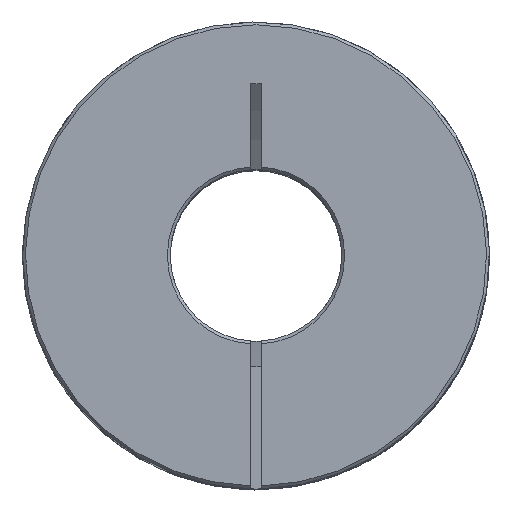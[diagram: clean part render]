
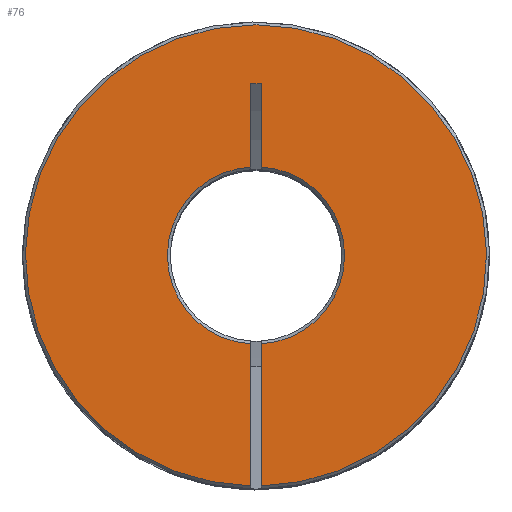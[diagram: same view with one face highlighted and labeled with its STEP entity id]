
A CAD part, top view. The second image highlights one B-rep face of the part: STEP entity #76.
In plain terms, the highlighted planar face has unit normal (0, 0, 1).
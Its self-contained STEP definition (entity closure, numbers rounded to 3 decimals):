
#76 = ADVANCED_FACE( '', ( #153 ), #154, .T. );
#153 = FACE_OUTER_BOUND( '', #361, .T. );
#154 = PLANE( '', #362 );
#361 = EDGE_LOOP( '', ( #571, #572, #573, #574, #575, #576, #577, #578 ) );
#362 = AXIS2_PLACEMENT_3D( '', #579, #580, #581 );
#571 = ORIENTED_EDGE( '', *, *, #1114, .F. );
#572 = ORIENTED_EDGE( '', *, *, #1115, .T. );
#573 = ORIENTED_EDGE( '', *, *, #1116, .T. );
#574 = ORIENTED_EDGE( '', *, *, #1117, .T. );
#575 = ORIENTED_EDGE( '', *, *, #1118, .T. );
#576 = ORIENTED_EDGE( '', *, *, #1119, .F. );
#577 = ORIENTED_EDGE( '', *, *, #1120, .F. );
#578 = ORIENTED_EDGE( '', *, *, #1121, .T. );
#579 = CARTESIAN_POINT( '', ( -9., 0., 35. ) );
#580 = DIRECTION( '', ( 0., 0., 1. ) );
#581 = DIRECTION( '', ( 1., 0., 0. ) );
#1114 = EDGE_CURVE( '', #1278, #1279, #1280, .T. );
#1115 = EDGE_CURVE( '', #1278, #1281, #1282, .T. );
#1116 = EDGE_CURVE( '', #1281, #1283, #1284, .T. );
#1117 = EDGE_CURVE( '', #1283, #1285, #1286, .F. );
#1118 = EDGE_CURVE( '', #1285, #1287, #1288, .T. );
#1119 = EDGE_CURVE( '', #1289, #1287, #1290, .T. );
#1120 = EDGE_CURVE( '', #1291, #1289, #1292, .T. );
#1121 = EDGE_CURVE( '', #1291, #1279, #1293, .F. );
#1278 = VERTEX_POINT( '', #1560 );
#1279 = VERTEX_POINT( '', #1561 );
#1280 = LINE( '', #1562, #1563 );
#1281 = VERTEX_POINT( '', #1564 );
#1282 = CIRCLE( '', #1565, 24.2 );
#1283 = VERTEX_POINT( '', #1566 );
#1284 = LINE( '', #1567, #1568 );
#1285 = VERTEX_POINT( '', #1569 );
#1286 = CIRCLE( '', #1570, 9.3 );
#1287 = VERTEX_POINT( '', #1571 );
#1288 = LINE( '', #1572, #1573 );
#1289 = VERTEX_POINT( '', #1574 );
#1290 = LINE( '', #1575, #1576 );
#1291 = VERTEX_POINT( '', #1577 );
#1292 = LINE( '', #1578, #1579 );
#1293 = CIRCLE( '', #1580, 9.3 );
#1560 = CARTESIAN_POINT( '', ( 0.55, -24.194, 35. ) );
#1561 = CARTESIAN_POINT( '', ( 0.55, -9.284, 35. ) );
#1562 = CARTESIAN_POINT( '', ( 0.55, -24.5, 35. ) );
#1563 = VECTOR( '', #2488, 1000. );
#1564 = CARTESIAN_POINT( '', ( -0.55, -24.194, 35. ) );
#1565 = AXIS2_PLACEMENT_3D( '', #2489, #2490, #2491 );
#1566 = CARTESIAN_POINT( '', ( -0.55, -9.284, 35. ) );
#1567 = CARTESIAN_POINT( '', ( -0.55, -24.5, 35. ) );
#1568 = VECTOR( '', #2492, 1000. );
#1569 = CARTESIAN_POINT( '', ( -0.55, 9.284, 35. ) );
#1570 = AXIS2_PLACEMENT_3D( '', #2493, #2494, #2495 );
#1571 = CARTESIAN_POINT( '', ( -0.55, 18., 35. ) );
#1572 = CARTESIAN_POINT( '', ( -0.55, -24.5, 35. ) );
#1573 = VECTOR( '', #2496, 1000. );
#1574 = CARTESIAN_POINT( '', ( 0.55, 18., 35. ) );
#1575 = CARTESIAN_POINT( '', ( 0.55, 18., 35. ) );
#1576 = VECTOR( '', #2497, 1000. );
#1577 = CARTESIAN_POINT( '', ( 0.55, 9.284, 35. ) );
#1578 = CARTESIAN_POINT( '', ( 0.55, -24.5, 35. ) );
#1579 = VECTOR( '', #2498, 1000. );
#1580 = AXIS2_PLACEMENT_3D( '', #2499, #2500, #2501 );
#2488 = DIRECTION( '', ( 0., 1., 0. ) );
#2489 = CARTESIAN_POINT( '', ( 0., 0., 35. ) );
#2490 = DIRECTION( '', ( 0., 0., 1. ) );
#2491 = DIRECTION( '', ( 1., 0., 0. ) );
#2492 = DIRECTION( '', ( 0., 1., 0. ) );
#2493 = CARTESIAN_POINT( '', ( 0., 0., 35. ) );
#2494 = DIRECTION( '', ( 0., 0., 1. ) );
#2495 = DIRECTION( '', ( 1., 0., 0. ) );
#2496 = DIRECTION( '', ( 0., 1., 0. ) );
#2497 = DIRECTION( '', ( -1., 0., 0. ) );
#2498 = DIRECTION( '', ( 0., 1., 0. ) );
#2499 = CARTESIAN_POINT( '', ( 0., 0., 35. ) );
#2500 = DIRECTION( '', ( 0., 0., 1. ) );
#2501 = DIRECTION( '', ( 1., 0., 0. ) );
